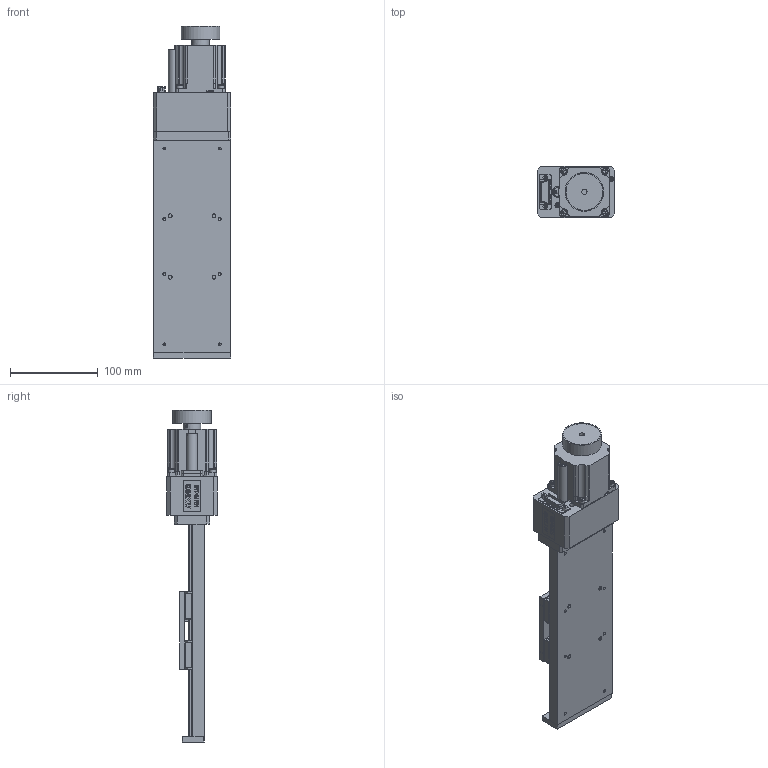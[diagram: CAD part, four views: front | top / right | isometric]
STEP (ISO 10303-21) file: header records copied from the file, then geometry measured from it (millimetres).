
FILE_DESCRIPTION((''),'2;1');
FILE_NAME('C:\Axmo\Axmo autodesk\Designs\Standard\1437 mnt9\MNT9-150.stp','2011-09-13T16:07:05',('AXMOBE'),(''),'Autodesk Inventor 2011','Autodesk Inventor 2011','');
FILE_SCHEMA(('AUTOMOTIVE_DESIGN { 1 2 10303 214 0 1 1 1 }'));
Length unit declared in the file: millimetre
Products named in the file (1): 1437 00 ENS 000-150_Enveloppe_1
Bounding box: 88.1 x 58 x 378 mm (x, y, z)
Volume: 735196.2 mm3; surface area: 168506.3 mm2
Topology: 2 solids, 143 shells, 2403 faces, 5685 edges, 3668 vertices
Faces by surface type: plane 1469, cylinder 504, cone 184, torus 143, bspline 87, sphere 16
Full cylindrical faces by diameter (mm): 1 x10, 1.5 x16, 1.567 x4, 1.754 x4, 2 x4, 2.013 x8, 2.1 x2, 2.25 x4, 2.459 x65, 2.5 x2, 2.8 x1, 3 x53, 3.1 x4, 3.242 x21, 3.5 x45, 4 x4, 4.5 x5, 5 x6, 5.5 x45, 5.7 x2, 6 x43, 6.2 x1, 6.35 x3, 6.459 x2, 7 x8, 7.5 x4, 8 x2, 9 x1, 10 x1, 10.84 x4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
Entity records: 66852 total; most frequent: CARTESIAN_POINT 14561, DIRECTION 10016, ORIENTED_EDGE 9316, EDGE_CURVE 4658, AXIS2_PLACEMENT_3D 3658, EDGE_LOOP 3421, VERTEX_POINT 3341, VECTOR 2700
